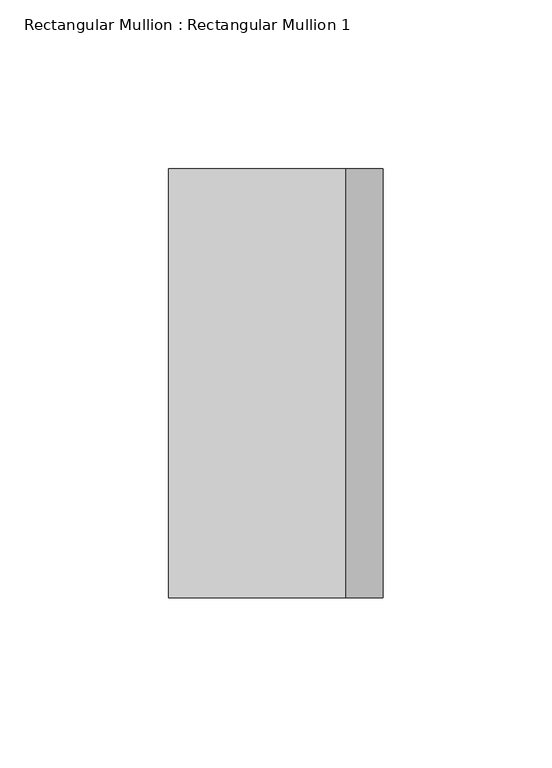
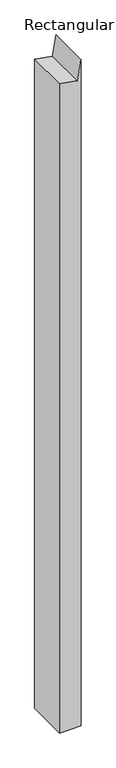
"""IFC4 building model written with IfcOpenShell, lengths in millimetres: member geometry, Rectangular Mullion : Rectangular Mullion 1."""

from ifc_helpers import new_model, si_unit, frame, origin, place, context, project, spatial, polyline, outline, extrude, source, transform, mapped, element, save


def rectangular_mullion_rectangular_mullion_1_51b61bf9(model_context):
    return source(origin(), model_context, "Body", "SweptSolid", [
        extrude(outline(polyline([(0.0, 0.0), (-62.5352923, -11.0266593), (-53.2828266, -63.5), (-2074.9981786, -63.5), (-2074.9981786, 0.0), (0.0, 0.0)])), frame((0.0, -63.5, 0.0), z_axis=(0.0, 1.0, 0.0), x_axis=(0.0, 0.0, 1.0)), (0.0, 0.0, 1.0), 127.0),
    ])


if __name__ == "__main__":
    model = new_model("IFC4")
    model_context = context("Model", 3, world=origin())
    ifc_project = project(units=[si_unit("LENGTHUNIT", "METRE", prefix="MILLI")], contexts=[model_context])
    site = spatial("IfcSite", under=ifc_project)
    building = spatial("IfcBuilding", under=site)
    placement = place(None, origin())
    rectangular_mullion_rectangular_mullion_1_shape = rectangular_mullion_rectangular_mullion_1_51b61bf9(model_context)
    element("IfcMember", 1, ObjectType="Rectangular Mullion : Rectangular Mullion 1", at=placement, inside=building, context=model_context, shape_type="MappedRepresentation", body=[
        mapped(rectangular_mullion_rectangular_mullion_1_shape, transform((0.0, 0.0, 0.0), x_axis=(1.0, 0.0, 0.0), y_axis=(0.0, 1.0, 0.0), z_axis=(0.0, 0.0, 1.0))),
    ])
    save(model, "model.ifc")
